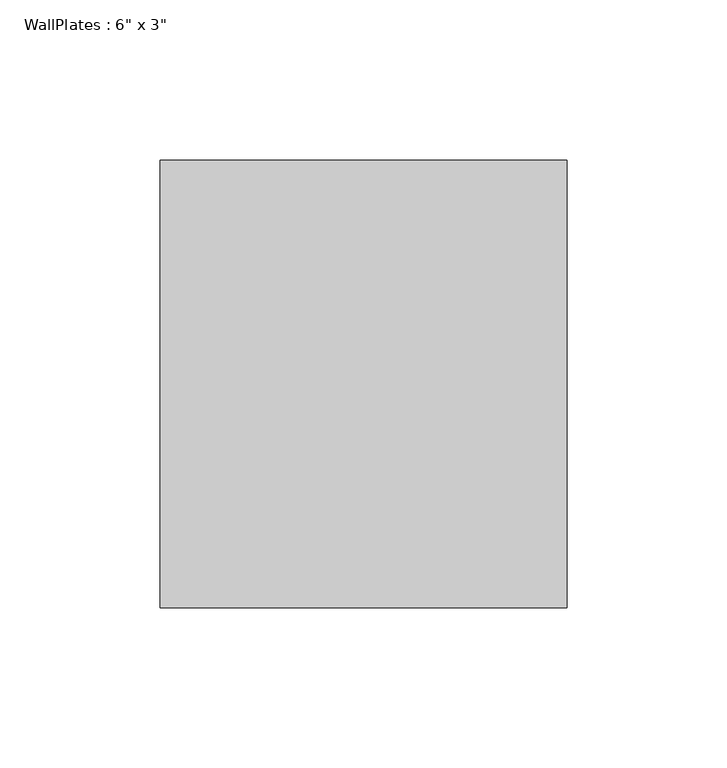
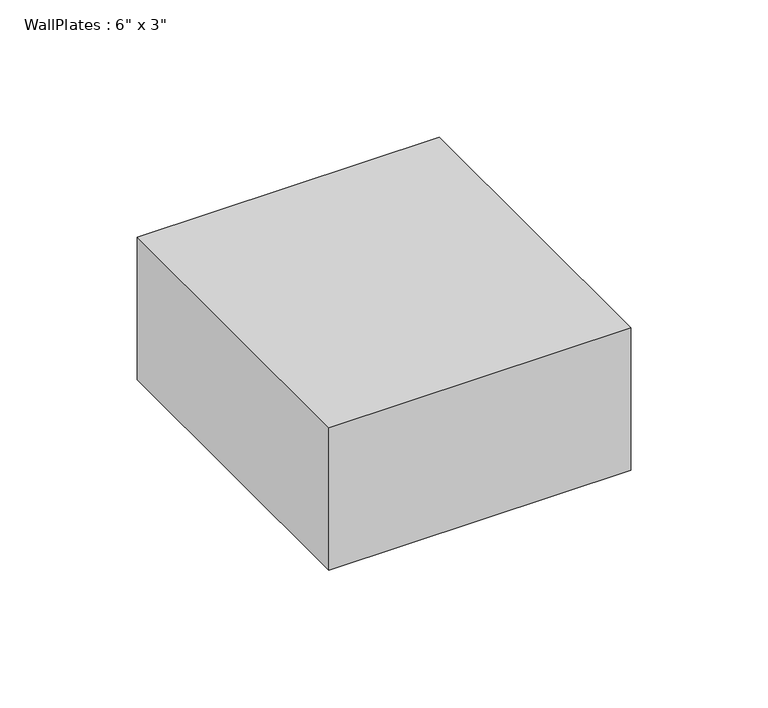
"""IFC4 building model written with IfcOpenShell, lengths in millimetres: beam geometry."""

from ifc_helpers import new_model, si_unit, frame, origin, place, context, project, spatial, polyline, outline, extrude, source, transform, mapped, element, save


def beam_871d04bb(model_context):
    return source(origin(), model_context, "Body", "SweptSolid", [
        extrude(outline(polyline([(-63.505, -69.85), (-63.505, 69.85), (63.505, 69.85), (63.505, -69.85), (-63.505, -69.85)])), frame((0.0, 0.0, -31.75), z_axis=(0.0, 0.0, 1.0), x_axis=(1.0, 0.0, 0.0)), (0.0, 0.0, 1.0), 63.5),
    ])


if __name__ == "__main__":
    model = new_model("IFC4")
    model_context = context("Model", 3, world=origin())
    ifc_project = project(units=[si_unit("LENGTHUNIT", "METRE", prefix="MILLI")], contexts=[model_context])
    site = spatial("IfcSite", under=ifc_project)
    building = spatial("IfcBuilding", under=site)
    placement = place(None, origin())
    beam_shape = beam_871d04bb(model_context)
    element("IfcBeam", 1, ObjectType="WallPlates : 6\" x 3\"", at=placement, inside=building, context=model_context, shape_type="MappedRepresentation", body=[
        mapped(beam_shape, transform((0.0, 0.0, 0.0), x_axis=(1.0, 0.0, 0.0), y_axis=(0.0, 1.0, 0.0), z_axis=(0.0, 0.0, 1.0))),
    ])
    save(model, "model.ifc")
